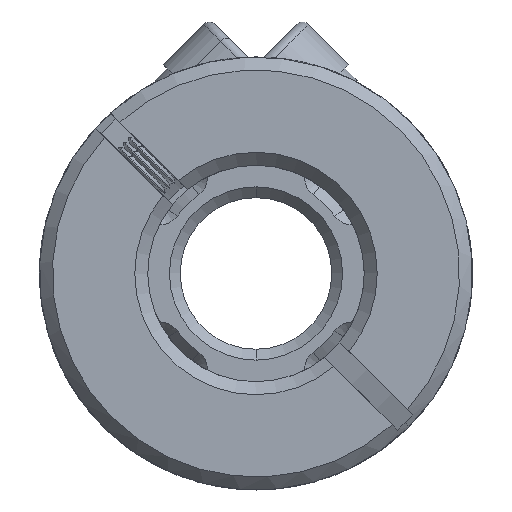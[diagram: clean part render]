
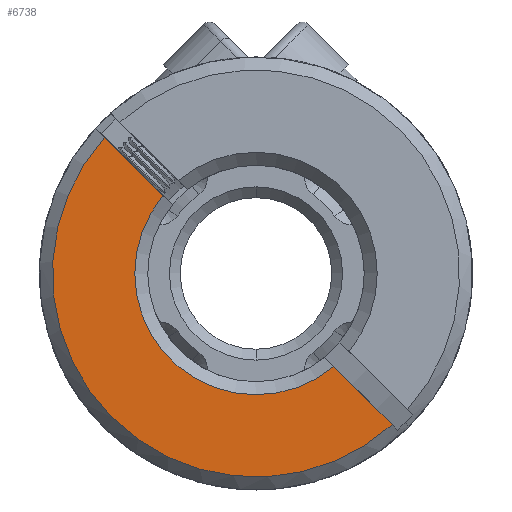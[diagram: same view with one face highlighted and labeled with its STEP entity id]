
A CAD part, front view. The second image highlights one B-rep face of the part: STEP entity #6738.
In plain terms, the highlighted planar face has unit normal (0, -1, 0).
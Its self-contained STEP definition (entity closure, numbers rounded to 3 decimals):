
#759 = CARTESIAN_POINT ( 'NONE',  ( -4.298, -11.2, 3.59 ) ) ;
#1093 = DIRECTION ( 'NONE',  ( -0.707, 0., 0.707 ) ) ;
#1155 = DIRECTION ( 'NONE',  ( 0., -1., 0. ) ) ;
#1458 = CARTESIAN_POINT ( 'NONE',  ( -8.839, -11.2, 8.132 ) ) ;
#1501 = VERTEX_POINT ( 'NONE', #14187 ) ;
#1936 = DIRECTION ( 'NONE',  ( -0.707, 0., 0.707 ) ) ;
#2209 = DIRECTION ( 'NONE',  ( -0.707, 0., 0.707 ) ) ;
#2813 = AXIS2_PLACEMENT_3D ( 'NONE', #14830, #4390, #2209 ) ;
#3029 = FACE_OUTER_BOUND ( 'NONE', #14023, .T. ) ;
#3660 = CARTESIAN_POINT ( 'NONE',  ( 3.59, -11.2, -4.298 ) ) ;
#3855 = ORIENTED_EDGE ( 'NONE', *, *, #4314, .T. ) ;
#4314 = EDGE_CURVE ( 'NONE', #1501, #6385, #5440, .T. ) ;
#4390 = DIRECTION ( 'NONE',  ( 0., -1., 0. ) ) ;
#4479 = ORIENTED_EDGE ( 'NONE', *, *, #14278, .T. ) ;
#4820 = CIRCLE ( 'NONE', #8524, 5.6 ) ;
#5089 = CARTESIAN_POINT ( 'NONE',  ( 0.205, -11.2, -0.912 ) ) ;
#5275 = VERTEX_POINT ( 'NONE', #14100 ) ;
#5440 = LINE ( 'NONE', #1458, #11979 ) ;
#5905 = ORIENTED_EDGE ( 'NONE', *, *, #11598, .T. ) ;
#5985 = DIRECTION ( 'NONE',  ( -0.707, 0., 0.707 ) ) ;
#6239 = EDGE_CURVE ( 'NONE', #6385, #8481, #4820, .T. ) ;
#6385 = VERTEX_POINT ( 'NONE', #3660 ) ;
#6738 = ADVANCED_FACE ( 'NONE', ( #3029 ), #12604, .T. ) ;
#6827 = CARTESIAN_POINT ( 'NONE',  ( 0., -11.2, 0. ) ) ;
#7748 = AXIS2_PLACEMENT_3D ( 'NONE', #14020, #1155, #9275 ) ;
#8481 = VERTEX_POINT ( 'NONE', #759 ) ;
#8524 = AXIS2_PLACEMENT_3D ( 'NONE', #6827, #9159, #1093 ) ;
#9159 = DIRECTION ( 'NONE',  ( 0., 1., 0. ) ) ;
#9275 = DIRECTION ( 'NONE',  ( -0.707, 0., 0.707 ) ) ;
#11598 = EDGE_CURVE ( 'NONE', #5275, #1501, #13581, .T. ) ;
#11979 = VECTOR ( 'NONE', #5985, 1000. ) ;
#12588 = LINE ( 'NONE', #5089, #14215 ) ;
#12604 = PLANE ( 'NONE',  #2813 ) ;
#13581 = CIRCLE ( 'NONE', #7748, 9.4 ) ;
#13835 = ORIENTED_EDGE ( 'NONE', *, *, #6239, .T. ) ;
#14020 = CARTESIAN_POINT ( 'NONE',  ( 0., -11.2, 0. ) ) ;
#14023 = EDGE_LOOP ( 'NONE', ( #4479, #5905, #3855, #13835 ) ) ;
#14100 = CARTESIAN_POINT ( 'NONE',  ( -6.991, -11.2, 6.284 ) ) ;
#14187 = CARTESIAN_POINT ( 'NONE',  ( 6.284, -11.2, -6.991 ) ) ;
#14215 = VECTOR ( 'NONE', #1936, 1000. ) ;
#14278 = EDGE_CURVE ( 'NONE', #8481, #5275, #12588, .T. ) ;
#14830 = CARTESIAN_POINT ( 'NONE',  ( 45.083, -11.2, 25.627 ) ) ;
